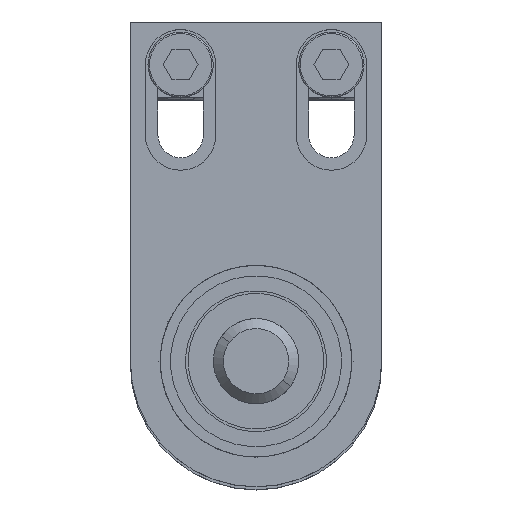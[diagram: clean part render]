
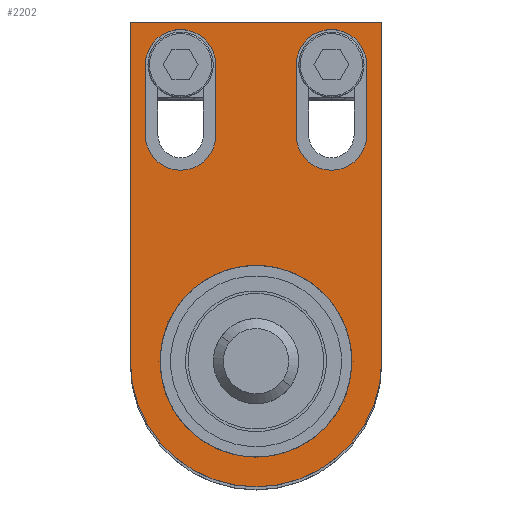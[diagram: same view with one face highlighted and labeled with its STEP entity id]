
A CAD part, top view. The second image highlights one B-rep face of the part: STEP entity #2202.
In plain terms, the highlighted planar face has unit normal (0, 0, 1).
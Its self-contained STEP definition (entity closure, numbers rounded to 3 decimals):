
#5 = VECTOR ( 'NONE', #1943, 1000. ) ;
#209 = EDGE_CURVE ( 'NONE', #4978, #5873, #575, .T. ) ;
#259 = AXIS2_PLACEMENT_3D ( 'NONE', #5739, #2528, #4314 ) ;
#301 = AXIS2_PLACEMENT_3D ( 'NONE', #5856, #4018, #1192 ) ;
#338 = EDGE_CURVE ( 'NONE', #3331, #2973, #4551, .T. ) ;
#352 = ORIENTED_EDGE ( 'NONE', *, *, #2863, .F. ) ;
#443 = CIRCLE ( 'NONE', #1912, 19.079 ) ;
#491 = CIRCLE ( 'NONE', #3188, 19.079 ) ;
#503 = EDGE_CURVE ( 'NONE', #5895, #3331, #2532, .T. ) ;
#516 = CARTESIAN_POINT ( 'NONE',  ( -22., 59., 6. ) ) ;
#575 = LINE ( 'NONE', #1769, #1211 ) ;
#627 = LINE ( 'NONE', #1157, #4465 ) ;
#700 = EDGE_CURVE ( 'NONE', #3606, #3990, #491, .T. ) ;
#775 = CARTESIAN_POINT ( 'NONE',  ( -15., 45., 6. ) ) ;
#794 = DIRECTION ( 'NONE',  ( 0., 0., 1. ) ) ;
#872 = AXIS2_PLACEMENT_3D ( 'NONE', #4166, #5969, #3236 ) ;
#952 = AXIS2_PLACEMENT_3D ( 'NONE', #5414, #2654, #2728 ) ;
#960 = CARTESIAN_POINT ( 'NONE',  ( 0., 0., 6. ) ) ;
#1086 = AXIS2_PLACEMENT_3D ( 'NONE', #775, #794, #4023 ) ;
#1157 = CARTESIAN_POINT ( 'NONE',  ( 25., 0., 6. ) ) ;
#1192 = DIRECTION ( 'NONE',  ( 1., 0., 0. ) ) ;
#1204 = CARTESIAN_POINT ( 'NONE',  ( 22., 59., 6. ) ) ;
#1208 = CARTESIAN_POINT ( 'NONE',  ( -8., 59., 6. ) ) ;
#1211 = VECTOR ( 'NONE', #5481, 1000. ) ;
#1300 = EDGE_CURVE ( 'NONE', #3625, #3233, #4045, .T. ) ;
#1301 = DIRECTION ( 'NONE',  ( 1., 0., 0. ) ) ;
#1396 = DIRECTION ( 'NONE',  ( 0., 1., 0. ) ) ;
#1481 = EDGE_LOOP ( 'NONE', ( #3615, #5532, #2946, #352 ) ) ;
#1503 = CARTESIAN_POINT ( 'NONE',  ( 22., 45., 6. ) ) ;
#1545 = CARTESIAN_POINT ( 'NONE',  ( 8., 59., 6. ) ) ;
#1562 = DIRECTION ( 'NONE',  ( 0., -1., 0. ) ) ;
#1672 = ORIENTED_EDGE ( 'NONE', *, *, #700, .F. ) ;
#1688 = CARTESIAN_POINT ( 'NONE',  ( 25., 67.5, 6. ) ) ;
#1769 = CARTESIAN_POINT ( 'NONE',  ( -25., 0., 6. ) ) ;
#1800 = ORIENTED_EDGE ( 'NONE', *, *, #2370, .T. ) ;
#1813 = CARTESIAN_POINT ( 'NONE',  ( -22., 59., 6. ) ) ;
#1815 = EDGE_CURVE ( 'NONE', #4813, #5626, #3243, .T. ) ;
#1881 = ORIENTED_EDGE ( 'NONE', *, *, #209, .T. ) ;
#1912 = AXIS2_PLACEMENT_3D ( 'NONE', #960, #5606, #4638 ) ;
#1943 = DIRECTION ( 'NONE',  ( 0., 1., 0. ) ) ;
#2202 = ADVANCED_FACE ( 'NONE', ( #4399, #5993, #3675, #4328 ), #4826, .T. ) ;
#2213 = CARTESIAN_POINT ( 'NONE',  ( 0., 0., 6. ) ) ;
#2236 = ORIENTED_EDGE ( 'NONE', *, *, #5697, .F. ) ;
#2256 = ORIENTED_EDGE ( 'NONE', *, *, #5162, .F. ) ;
#2370 = EDGE_CURVE ( 'NONE', #5232, #2995, #627, .T. ) ;
#2401 = AXIS2_PLACEMENT_3D ( 'NONE', #2521, #5673, #5256 ) ;
#2521 = CARTESIAN_POINT ( 'NONE',  ( -15., 59., 6. ) ) ;
#2528 = DIRECTION ( 'NONE',  ( 0., 0., 1. ) ) ;
#2532 = CIRCLE ( 'NONE', #301, 7. ) ;
#2634 = CARTESIAN_POINT ( 'NONE',  ( -22., 45., 6. ) ) ;
#2637 = LINE ( 'NONE', #5706, #5 ) ;
#2654 = DIRECTION ( 'NONE',  ( 0., 0., 1. ) ) ;
#2698 = ORIENTED_EDGE ( 'NONE', *, *, #1300, .F. ) ;
#2728 = DIRECTION ( 'NONE',  ( 1., 0., 0. ) ) ;
#2778 = DIRECTION ( 'NONE',  ( -1., 0., 0. ) ) ;
#2840 = EDGE_LOOP ( 'NONE', ( #2875, #2256, #2698, #4084 ) ) ;
#2863 = EDGE_CURVE ( 'NONE', #5284, #5895, #5761, .T. ) ;
#2875 = ORIENTED_EDGE ( 'NONE', *, *, #1815, .F. ) ;
#2926 = CIRCLE ( 'NONE', #952, 7. ) ;
#2946 = ORIENTED_EDGE ( 'NONE', *, *, #503, .F. ) ;
#2973 = VERTEX_POINT ( 'NONE', #1204 ) ;
#2995 = VERTEX_POINT ( 'NONE', #1688 ) ;
#3038 = EDGE_LOOP ( 'NONE', ( #3689, #1800, #3740, #1881 ) ) ;
#3097 = CARTESIAN_POINT ( 'NONE',  ( -19.079, 0., 6. ) ) ;
#3188 = AXIS2_PLACEMENT_3D ( 'NONE', #2213, #4534, #1301 ) ;
#3233 = VERTEX_POINT ( 'NONE', #4622 ) ;
#3236 = DIRECTION ( 'NONE',  ( 1., 0., 0. ) ) ;
#3243 = CIRCLE ( 'NONE', #2401, 7. ) ;
#3287 = LINE ( 'NONE', #5934, #5598 ) ;
#3331 = VERTEX_POINT ( 'NONE', #1503 ) ;
#3333 = VECTOR ( 'NONE', #1396, 1000. ) ;
#3369 = CIRCLE ( 'NONE', #872, 25. ) ;
#3423 = CARTESIAN_POINT ( 'NONE',  ( -25., 0., 6. ) ) ;
#3425 = LINE ( 'NONE', #516, #4502 ) ;
#3606 = VERTEX_POINT ( 'NONE', #3097 ) ;
#3615 = ORIENTED_EDGE ( 'NONE', *, *, #4176, .F. ) ;
#3625 = VERTEX_POINT ( 'NONE', #2634 ) ;
#3675 = FACE_BOUND ( 'NONE', #6009, .T. ) ;
#3687 = EDGE_CURVE ( 'NONE', #5873, #5232, #3369, .T. ) ;
#3689 = ORIENTED_EDGE ( 'NONE', *, *, #3687, .T. ) ;
#3740 = ORIENTED_EDGE ( 'NONE', *, *, #5588, .T. ) ;
#3990 = VERTEX_POINT ( 'NONE', #4783 ) ;
#4018 = DIRECTION ( 'NONE',  ( 0., 0., 1. ) ) ;
#4023 = DIRECTION ( 'NONE',  ( 1., 0., 0. ) ) ;
#4045 = CIRCLE ( 'NONE', #1086, 7. ) ;
#4084 = ORIENTED_EDGE ( 'NONE', *, *, #5768, .F. ) ;
#4166 = CARTESIAN_POINT ( 'NONE',  ( 0., 0., 6. ) ) ;
#4176 = EDGE_CURVE ( 'NONE', #2973, #5284, #2926, .T. ) ;
#4314 = DIRECTION ( 'NONE',  ( 1., 0., 0. ) ) ;
#4328 = FACE_OUTER_BOUND ( 'NONE', #3038, .T. ) ;
#4398 = CARTESIAN_POINT ( 'NONE',  ( 25., 0., 6. ) ) ;
#4399 = FACE_BOUND ( 'NONE', #1481, .T. ) ;
#4465 = VECTOR ( 'NONE', #4927, 1000. ) ;
#4502 = VECTOR ( 'NONE', #4662, 1000. ) ;
#4534 = DIRECTION ( 'NONE',  ( 0., 0., 1. ) ) ;
#4551 = LINE ( 'NONE', #4702, #3333 ) ;
#4600 = CARTESIAN_POINT ( 'NONE',  ( -25., 67.5, 6. ) ) ;
#4622 = CARTESIAN_POINT ( 'NONE',  ( -8., 45., 6. ) ) ;
#4638 = DIRECTION ( 'NONE',  ( 1., 0., 0. ) ) ;
#4662 = DIRECTION ( 'NONE',  ( 0., -1., 0. ) ) ;
#4702 = CARTESIAN_POINT ( 'NONE',  ( 22., 59., 6. ) ) ;
#4783 = CARTESIAN_POINT ( 'NONE',  ( 19.079, 0., 6. ) ) ;
#4813 = VERTEX_POINT ( 'NONE', #1208 ) ;
#4826 = PLANE ( 'NONE',  #259 ) ;
#4838 = VECTOR ( 'NONE', #1562, 1000. ) ;
#4927 = DIRECTION ( 'NONE',  ( 0., 1., 0. ) ) ;
#4978 = VERTEX_POINT ( 'NONE', #4600 ) ;
#5162 = EDGE_CURVE ( 'NONE', #3233, #4813, #2637, .T. ) ;
#5232 = VERTEX_POINT ( 'NONE', #4398 ) ;
#5256 = DIRECTION ( 'NONE',  ( 1., 0., 0. ) ) ;
#5284 = VERTEX_POINT ( 'NONE', #5784 ) ;
#5340 = CARTESIAN_POINT ( 'NONE',  ( 8., 45., 6. ) ) ;
#5414 = CARTESIAN_POINT ( 'NONE',  ( 15., 59., 6. ) ) ;
#5481 = DIRECTION ( 'NONE',  ( 0., -1., 0. ) ) ;
#5532 = ORIENTED_EDGE ( 'NONE', *, *, #338, .F. ) ;
#5588 = EDGE_CURVE ( 'NONE', #2995, #4978, #3287, .T. ) ;
#5598 = VECTOR ( 'NONE', #2778, 1000. ) ;
#5606 = DIRECTION ( 'NONE',  ( 0., 0., 1. ) ) ;
#5626 = VERTEX_POINT ( 'NONE', #1813 ) ;
#5673 = DIRECTION ( 'NONE',  ( 0., 0., 1. ) ) ;
#5697 = EDGE_CURVE ( 'NONE', #3990, #3606, #443, .T. ) ;
#5706 = CARTESIAN_POINT ( 'NONE',  ( -8., 59., 6. ) ) ;
#5739 = CARTESIAN_POINT ( 'NONE',  ( 0., 0., 6. ) ) ;
#5761 = LINE ( 'NONE', #1545, #4838 ) ;
#5768 = EDGE_CURVE ( 'NONE', #5626, #3625, #3425, .T. ) ;
#5784 = CARTESIAN_POINT ( 'NONE',  ( 8., 59., 6. ) ) ;
#5856 = CARTESIAN_POINT ( 'NONE',  ( 15., 45., 6. ) ) ;
#5873 = VERTEX_POINT ( 'NONE', #3423 ) ;
#5895 = VERTEX_POINT ( 'NONE', #5340 ) ;
#5934 = CARTESIAN_POINT ( 'NONE',  ( 25., 67.5, 6. ) ) ;
#5969 = DIRECTION ( 'NONE',  ( 0., 0., 1. ) ) ;
#5993 = FACE_BOUND ( 'NONE', #2840, .T. ) ;
#6009 = EDGE_LOOP ( 'NONE', ( #1672, #2236 ) ) ;
